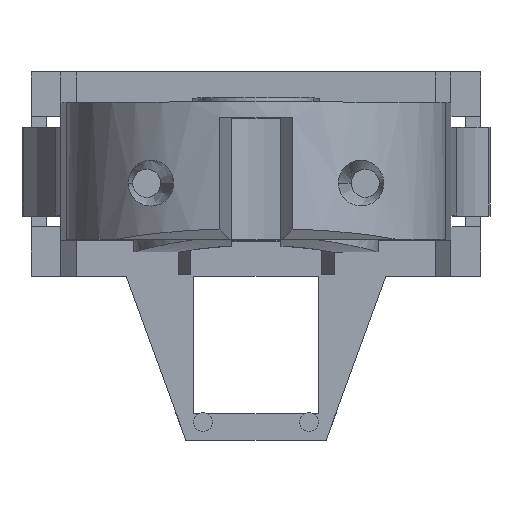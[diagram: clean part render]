
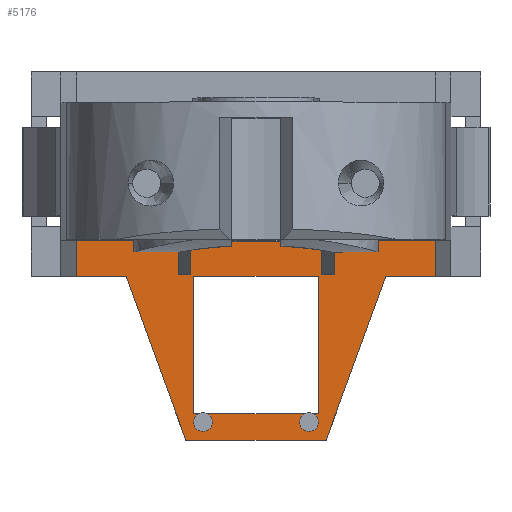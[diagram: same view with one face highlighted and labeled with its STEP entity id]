
A CAD part, top view. The second image highlights one B-rep face of the part: STEP entity #5176.
In plain terms, the highlighted planar face has unit normal (0, 0, 1).
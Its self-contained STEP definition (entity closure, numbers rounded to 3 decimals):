
#196=CARTESIAN_POINT(' ',(-4.2,-8.8,0.));
#197=VERTEX_POINT(' ',#196);
#211=CARTESIAN_POINT(' ',(-4.2,-8.8,0.));
#216=DIRECTION(' ',(1.,0.,0.));
#221=VECTOR(' ',#216,1.);
#226=LINE('',#211,#221);
#231=CARTESIAN_POINT(' ',(4.2,-8.8,0.));
#232=VERTEX_POINT(' ',#231);
#236=EDGE_CURVE(' ',#197,#232,#226,.T.);
#336=CARTESIAN_POINT(' ',(5.,-8.8,0.));
#337=VERTEX_POINT(' ',#336);
#351=CARTESIAN_POINT(' ',(5.,-8.8,0.));
#356=DIRECTION(' ',(1.,0.,0.));
#361=VECTOR(' ',#356,1.);
#366=LINE('',#351,#361);
#371=CARTESIAN_POINT(' ',(11.5,-8.8,0.));
#372=VERTEX_POINT(' ',#371);
#376=EDGE_CURVE(' ',#337,#372,#366,.T.);
#1201=CARTESIAN_POINT(' ',(-11.5,-8.8,0.));
#1202=VERTEX_POINT(' ',#1201);
#1216=CARTESIAN_POINT(' ',(-11.5,-8.8,0.));
#1221=DIRECTION(' ',(1.,0.,0.));
#1226=VECTOR(' ',#1221,1.);
#1231=LINE('',#1216,#1226);
#1236=CARTESIAN_POINT(' ',(-5.,-8.8,0.));
#1237=VERTEX_POINT(' ',#1236);
#1241=EDGE_CURVE(' ',#1202,#1237,#1231,.T.);
#3776=CARTESIAN_POINT(' ',(-5.,-11.,0.));
#3777=VERTEX_POINT(' ',#3776);
#3791=CARTESIAN_POINT(' ',(-4.2,-11.,0.));
#3796=DIRECTION(' ',(-1.,0.,0.));
#3801=VECTOR(' ',#3796,1.);
#3806=LINE('',#3791,#3801);
#3811=CARTESIAN_POINT(' ',(-4.2,-11.,0.));
#3812=VERTEX_POINT(' ',#3811);
#3816=EDGE_CURVE(' ',#3812,#3777,#3806,.T.);
#4076=CARTESIAN_POINT(' ',(-4.2,-11.,0.));
#4081=DIRECTION(' ',(0.,1.,0.));
#4086=VECTOR(' ',#4081,1.);
#4091=LINE('',#4076,#4086);
#4096=EDGE_CURVE(' ',#3812,#197,#4091,.T.);
#4286=DIRECTION(' ',(0.,0.,1.));
#4291=CARTESIAN_POINT(' ',(-11.5,-21.6,0.));
#4296=DIRECTION(' ',(1.,0.,0.));
#4301=AXIS2_PLACEMENT_3D(' ',#4291,#4286,#4296);
#4306=PLANE('',#4301);
#4311=CARTESIAN_POINT(' ',(11.5,-8.8,0.));
#4316=DIRECTION(' ',(0.,-1.,0.));
#4321=VECTOR(' ',#4316,1.);
#4326=LINE('',#4311,#4321);
#4331=CARTESIAN_POINT(' ',(11.5,-11.1,0.));
#4332=VERTEX_POINT(' ',#4331);
#4336=EDGE_CURVE(' ',#372,#4332,#4326,.T.);
#4341=ORIENTED_EDGE(' ',*,*,#4336,.F.);
#4346=ORIENTED_EDGE(' ',*,*,#376,.F.);
#4351=CARTESIAN_POINT(' ',(5.,-8.8,0.));
#4356=DIRECTION(' ',(0.,-1.,0.));
#4361=VECTOR(' ',#4356,1.);
#4366=LINE('',#4351,#4361);
#4371=CARTESIAN_POINT(' ',(5.,-11.,0.));
#4372=VERTEX_POINT(' ',#4371);
#4376=EDGE_CURVE(' ',#337,#4372,#4366,.T.);
#4381=ORIENTED_EDGE(' ',*,*,#4376,.T.);
#4386=CARTESIAN_POINT(' ',(4.2,-11.,0.));
#4391=DIRECTION(' ',(1.,0.,0.));
#4396=VECTOR(' ',#4391,1.);
#4401=LINE('',#4386,#4396);
#4406=CARTESIAN_POINT(' ',(4.2,-11.,0.));
#4407=VERTEX_POINT(' ',#4406);
#4411=EDGE_CURVE(' ',#4407,#4372,#4401,.T.);
#4416=ORIENTED_EDGE(' ',*,*,#4411,.F.);
#4421=CARTESIAN_POINT(' ',(4.2,-8.8,0.));
#4426=DIRECTION(' ',(0.,-1.,0.));
#4431=VECTOR(' ',#4426,1.);
#4436=LINE('',#4421,#4431);
#4441=EDGE_CURVE(' ',#232,#4407,#4436,.T.);
#4446=ORIENTED_EDGE(' ',*,*,#4441,.F.);
#4451=ORIENTED_EDGE(' ',*,*,#236,.F.);
#4456=ORIENTED_EDGE(' ',*,*,#4096,.F.);
#4461=ORIENTED_EDGE(' ',*,*,#3816,.T.);
#4466=CARTESIAN_POINT(' ',(-5.,-11.,0.));
#4471=DIRECTION(' ',(0.,1.,0.));
#4476=VECTOR(' ',#4471,1.);
#4481=LINE('',#4466,#4476);
#4486=EDGE_CURVE(' ',#3777,#1237,#4481,.T.);
#4491=ORIENTED_EDGE(' ',*,*,#4486,.T.);
#4496=ORIENTED_EDGE(' ',*,*,#1241,.F.);
#4501=CARTESIAN_POINT(' ',(-11.5,-11.1,0.));
#4506=DIRECTION(' ',(0.,1.,0.));
#4511=VECTOR(' ',#4506,1.);
#4516=LINE('',#4501,#4511);
#4521=CARTESIAN_POINT(' ',(-11.5,-11.1,0.));
#4522=VERTEX_POINT(' ',#4521);
#4526=EDGE_CURVE(' ',#4522,#1202,#4516,.T.);
#4531=ORIENTED_EDGE(' ',*,*,#4526,.F.);
#4536=CARTESIAN_POINT(' ',(-11.5,-11.1,0.));
#4541=DIRECTION(' ',(1.,0.,0.));
#4546=VECTOR(' ',#4541,1.);
#4551=LINE('',#4536,#4546);
#4556=CARTESIAN_POINT(' ',(-8.32,-11.1,0.));
#4557=VERTEX_POINT(' ',#4556);
#4561=EDGE_CURVE(' ',#4522,#4557,#4551,.T.);
#4566=ORIENTED_EDGE(' ',*,*,#4561,.T.);
#4571=CARTESIAN_POINT(' ',(-8.32,-11.1,0.));
#4576=DIRECTION(' ',(0.342,-0.94,0.));
#4581=VECTOR(' ',#4576,1.);
#4586=LINE('',#4571,#4581);
#4591=CARTESIAN_POINT(' ',(-4.498,-21.6,0.));
#4592=VERTEX_POINT(' ',#4591);
#4596=EDGE_CURVE(' ',#4557,#4592,#4586,.T.);
#4601=ORIENTED_EDGE(' ',*,*,#4596,.T.);
#4606=CARTESIAN_POINT(' ',(-4.498,-21.6,0.));
#4611=DIRECTION(' ',(1.,0.,0.));
#4616=VECTOR(' ',#4611,1.);
#4621=LINE('',#4606,#4616);
#4626=CARTESIAN_POINT(' ',(4.498,-21.6,0.));
#4627=VERTEX_POINT(' ',#4626);
#4631=EDGE_CURVE(' ',#4592,#4627,#4621,.T.);
#4636=ORIENTED_EDGE(' ',*,*,#4631,.T.);
#4641=CARTESIAN_POINT(' ',(4.498,-21.6,0.));
#4646=DIRECTION(' ',(0.342,0.94,0.));
#4651=VECTOR(' ',#4646,1.);
#4656=LINE('',#4641,#4651);
#4661=CARTESIAN_POINT(' ',(8.32,-11.1,0.));
#4662=VERTEX_POINT(' ',#4661);
#4666=EDGE_CURVE(' ',#4627,#4662,#4656,.T.);
#4671=ORIENTED_EDGE(' ',*,*,#4666,.T.);
#4676=CARTESIAN_POINT(' ',(8.32,-11.1,0.));
#4681=DIRECTION(' ',(1.,0.,0.));
#4686=VECTOR(' ',#4681,1.);
#4691=LINE('',#4676,#4686);
#4696=EDGE_CURVE(' ',#4662,#4332,#4691,.T.);
#4701=ORIENTED_EDGE(' ',*,*,#4696,.T.);
#4706=EDGE_LOOP(' ',(#4341,#4346,#4381,#4416,#4446,#4451,#4456,#4461,#4491,#4496,#4531,#4566,#4601,#4636,#4671,#4701));
#4711=FACE_OUTER_BOUND(' ',#4706,.T.);
#4716=CARTESIAN_POINT(' ',(-3.4,-20.45,0.));
#4721=DIRECTION(' ',(-0.,-0.,-1.));
#4726=DIRECTION(' ',(0.4,0.917,0.));
#4731=AXIS2_PLACEMENT_3D(' ',#4716,#4721,#4726);
#4736=CIRCLE('',#4731,0.6);
#4741=CARTESIAN_POINT(' ',(-3.16,-19.9,0.));
#4742=VERTEX_POINT(' ',#4741);
#4746=CARTESIAN_POINT(' ',(-2.8,-20.45,0.));
#4747=VERTEX_POINT(' ',#4746);
#4751=EDGE_CURVE(' ',#4742,#4747,#4736,.T.);
#4756=ORIENTED_EDGE(' ',*,*,#4751,.T.);
#4761=CARTESIAN_POINT(' ',(-3.4,-20.45,0.));
#4766=DIRECTION(' ',(0.,0.,-1.));
#4771=DIRECTION(' ',(1.,0.,0.));
#4776=AXIS2_PLACEMENT_3D(' ',#4761,#4766,#4771);
#4781=CIRCLE('',#4776,0.6);
#4786=CARTESIAN_POINT(' ',(-4.,-20.45,0.));
#4787=VERTEX_POINT(' ',#4786);
#4791=EDGE_CURVE(' ',#4747,#4787,#4781,.T.);
#4796=ORIENTED_EDGE(' ',*,*,#4791,.T.);
#4801=CARTESIAN_POINT(' ',(-3.4,-20.45,0.));
#4806=DIRECTION(' ',(0.,-0.,-1.));
#4811=DIRECTION(' ',(-1.,0.,0.));
#4816=AXIS2_PLACEMENT_3D(' ',#4801,#4806,#4811);
#4821=CIRCLE('',#4816,0.6);
#4826=CARTESIAN_POINT(' ',(-3.64,-19.9,0.));
#4827=VERTEX_POINT(' ',#4826);
#4831=EDGE_CURVE(' ',#4787,#4827,#4821,.T.);
#4836=ORIENTED_EDGE(' ',*,*,#4831,.T.);
#4841=CARTESIAN_POINT(' ',(-4.,-19.9,0.));
#4846=DIRECTION(' ',(1.,0.,0.));
#4851=VECTOR(' ',#4846,1.);
#4856=LINE('',#4841,#4851);
#4861=CARTESIAN_POINT(' ',(-4.,-19.9,0.));
#4862=VERTEX_POINT(' ',#4861);
#4866=EDGE_CURVE(' ',#4862,#4827,#4856,.T.);
#4871=ORIENTED_EDGE(' ',*,*,#4866,.F.);
#4876=CARTESIAN_POINT(' ',(-4.,-11.1,0.));
#4881=DIRECTION(' ',(0.,-1.,0.));
#4886=VECTOR(' ',#4881,1.);
#4891=LINE('',#4876,#4886);
#4896=CARTESIAN_POINT(' ',(-4.,-11.1,0.));
#4897=VERTEX_POINT(' ',#4896);
#4901=EDGE_CURVE(' ',#4897,#4862,#4891,.T.);
#4906=ORIENTED_EDGE(' ',*,*,#4901,.F.);
#4911=CARTESIAN_POINT(' ',(4.,-11.1,0.));
#4916=DIRECTION(' ',(-1.,0.,0.));
#4921=VECTOR(' ',#4916,1.);
#4926=LINE('',#4911,#4921);
#4931=CARTESIAN_POINT(' ',(4.,-11.1,0.));
#4932=VERTEX_POINT(' ',#4931);
#4936=EDGE_CURVE(' ',#4932,#4897,#4926,.T.);
#4941=ORIENTED_EDGE(' ',*,*,#4936,.F.);
#4946=CARTESIAN_POINT(' ',(4.,-19.9,0.));
#4951=DIRECTION(' ',(0.,1.,0.));
#4956=VECTOR(' ',#4951,1.);
#4961=LINE('',#4946,#4956);
#4966=CARTESIAN_POINT(' ',(4.,-19.9,0.));
#4967=VERTEX_POINT(' ',#4966);
#4971=EDGE_CURVE(' ',#4967,#4932,#4961,.T.);
#4976=ORIENTED_EDGE(' ',*,*,#4971,.F.);
#4981=CARTESIAN_POINT(' ',(3.64,-19.9,0.));
#4986=DIRECTION(' ',(1.,0.,0.));
#4991=VECTOR(' ',#4986,1.);
#4996=LINE('',#4981,#4991);
#5001=CARTESIAN_POINT(' ',(3.64,-19.9,0.));
#5002=VERTEX_POINT(' ',#5001);
#5006=EDGE_CURVE(' ',#5002,#4967,#4996,.T.);
#5011=ORIENTED_EDGE(' ',*,*,#5006,.F.);
#5016=CARTESIAN_POINT(' ',(3.4,-20.45,0.));
#5021=DIRECTION(' ',(-0.,-0.,-1.));
#5026=DIRECTION(' ',(0.4,0.917,0.));
#5031=AXIS2_PLACEMENT_3D(' ',#5016,#5021,#5026);
#5036=CIRCLE('',#5031,0.6);
#5041=CARTESIAN_POINT(' ',(4.,-20.45,0.));
#5042=VERTEX_POINT(' ',#5041);
#5046=EDGE_CURVE(' ',#5002,#5042,#5036,.T.);
#5051=ORIENTED_EDGE(' ',*,*,#5046,.T.);
#5056=CARTESIAN_POINT(' ',(3.4,-20.45,0.));
#5061=DIRECTION(' ',(0.,0.,-1.));
#5066=DIRECTION(' ',(1.,0.,0.));
#5071=AXIS2_PLACEMENT_3D(' ',#5056,#5061,#5066);
#5076=CIRCLE('',#5071,0.6);
#5081=CARTESIAN_POINT(' ',(2.8,-20.45,0.));
#5082=VERTEX_POINT(' ',#5081);
#5086=EDGE_CURVE(' ',#5042,#5082,#5076,.T.);
#5091=ORIENTED_EDGE(' ',*,*,#5086,.T.);
#5096=CARTESIAN_POINT(' ',(3.4,-20.45,0.));
#5101=DIRECTION(' ',(0.,-0.,-1.));
#5106=DIRECTION(' ',(-1.,0.,0.));
#5111=AXIS2_PLACEMENT_3D(' ',#5096,#5101,#5106);
#5116=CIRCLE('',#5111,0.6);
#5121=CARTESIAN_POINT(' ',(3.16,-19.9,0.));
#5122=VERTEX_POINT(' ',#5121);
#5126=EDGE_CURVE(' ',#5082,#5122,#5116,.T.);
#5131=ORIENTED_EDGE(' ',*,*,#5126,.T.);
#5136=CARTESIAN_POINT(' ',(-3.16,-19.9,0.));
#5141=DIRECTION(' ',(1.,0.,0.));
#5146=VECTOR(' ',#5141,1.);
#5151=LINE('',#5136,#5146);
#5156=EDGE_CURVE(' ',#4742,#5122,#5151,.T.);
#5161=ORIENTED_EDGE(' ',*,*,#5156,.F.);
#5166=EDGE_LOOP(' ',(#4756,#4796,#4836,#4871,#4906,#4941,#4976,#5011,#5051,#5091,#5131,#5161));
#5171=FACE_BOUND(' ',#5166,.T.);
#5176=ADVANCED_FACE('',(#4711,#5171),#4306,.T.);
